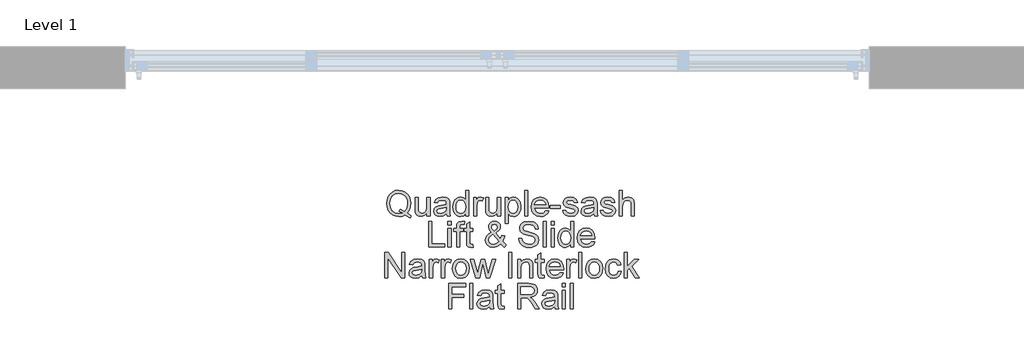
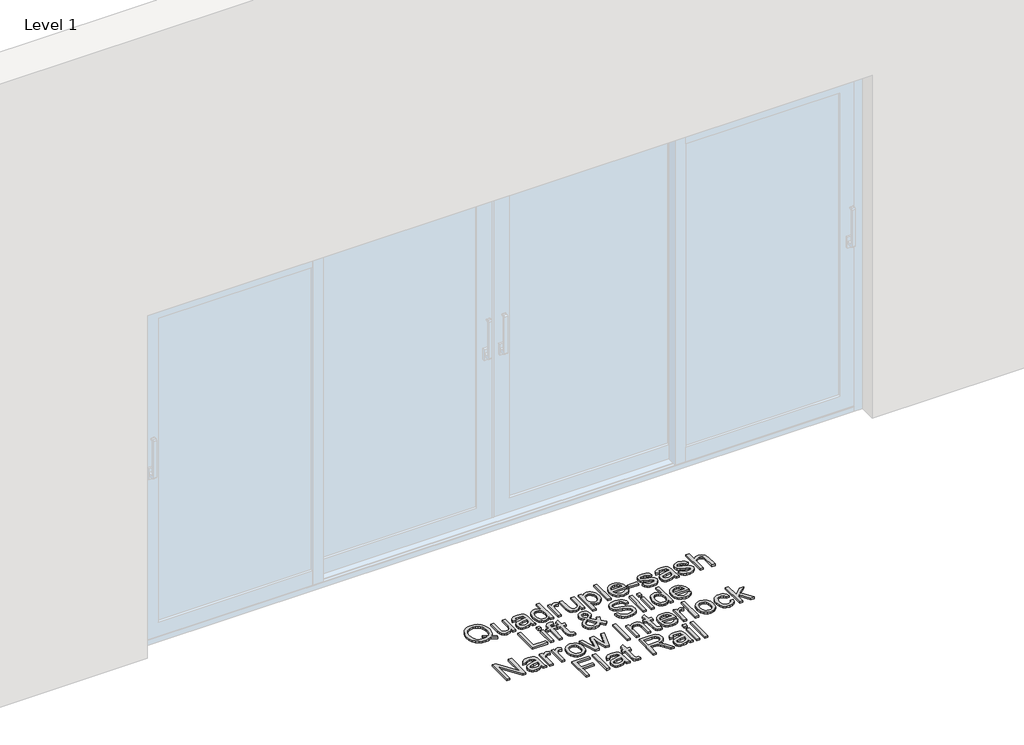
# One storey, part 2 of 11: 1 proxy.
"""IFC4 building model written with IfcOpenShell, lengths in millimetres."""

from ifc_helpers import new_model, si_unit, origin, origin_with_axes, place, context, project, spatial, polyline, outline, extrude, element, save

model = new_model("IFC4")

# Units and contexts
model_context = context("Model", 3, world=origin())
ifc_project = project(units=[si_unit("LENGTHUNIT", "METRE", prefix="MILLI")], contexts=[model_context])

# Site, building, storey
site = spatial("IfcSite", under=ifc_project)
building = spatial("IfcBuilding", under=site)
storey = spatial("IfcBuildingStorey", under=building, Name="Level 1", Elevation=0.0)

# Proxy
placement = place(None, origin())
element("IfcBuildingElementProxy", 1, Name="150mm Arial", ObjectType="150mm Arial", at=placement, inside=storey, context=model_context, shape_type="SweptSolid", body=[
    extrude(outline(polyline([(-5154.9723357, -5879.5997474), (-5131.611829, -5895.3083086), (-5136.6886005, -5909.1038834), (-5167.7010527, -5891.4823358), (-5185.1294623, -5897.8834825), (-5204.3053113, -5900.0171981), (-5223.5731308, -5897.5569873), (-5240.9831462, -5890.1763547), (-5255.5650688, -5878.3397515), (-5266.3486097, -5862.5116287), (-5273.0118724, -5843.5611074), (-5275.2329599, -5822.3573089), (-5273.0164709, -5801.1351163), (-5266.3670038, -5781.9086836), (-5255.6248496, -5765.855233), (-5241.130299, -5754.151987), (-5223.7846629, -5747.0058793), (-5204.4892523, -5744.6238433), (-5185.0420903, -5747.0610616), (-5167.6090822, -5754.3727162), (-5153.1375243, -5766.0713637), (-5142.5747125, -5781.6695603), (-5136.1183835, -5800.3395715), (-5133.9662738, -5821.2536629), (-5139.1901981, -5854.1791015), (-5145.7476947, -5867.8367206), (-5154.9723357, -5879.5997474)]), holes=[polyline([(-5199.1181751, -5854.5469835), (-5183.2808552, -5860.534263), (-5170.4969559, -5868.8575931), (-5157.2256129, -5849.4334238), (-5152.8018319, -5822.2101561), (-5154.3653304, -5805.6324737), (-5159.0558259, -5791.2896744), (-5166.7583551, -5779.5450417), (-5177.3579551, -5770.7618591), (-5190.1372559, -5765.2850159), (-5204.3788877, -5763.4594015), (-5224.906703, -5767.152017), (-5241.6085456, -5778.2298636), (-5252.7001877, -5796.6377589), (-5256.3974018, -5822.3205207), (-5252.7415744, -5847.4514595), (-5241.7740925, -5865.9697195), (-5225.1228337, -5877.3786598), (-5204.4156759, -5881.18164), (-5184.1453779, -5877.318879), (-5203.9742175, -5868.9679577), (-5199.1181751, -5854.5469835)])]), origin_with_axes(), (0.0, 0.0, 1.0), 10.0),
    extrude(outline(polyline([(-5037.4340382, -5897.6627533), (-5037.4340382, -5878.6432542), (-5052.1861063, -5894.6737121), (-5071.4263346, -5900.0171981), (-5089.1398527, -5896.2648018), (-5101.3535349, -5886.8470227), (-5106.9637353, -5872.9778715), (-5108.0673813, -5855.4666885), (-5108.0673813, -5787.0038492), (-5089.2318232, -5787.0038492), (-5089.2318232, -5846.6007324), (-5088.091389, -5865.8041726), (-5080.6417786, -5877.0797557), (-5066.6070805, -5881.18164), (-5050.8801252, -5876.9877852), (-5040.4874588, -5865.5650493), (-5037.4340382, -5844.5773814), (-5037.4340382, -5787.0038492), (-5018.5984801, -5787.0038492), (-5018.5984801, -5897.6627533), (-5037.4340382, -5897.6627533)])), origin_with_axes(), (0.0, 0.0, 1.0), 10.0),
    extrude(outline(polyline([(-4922.0662446, -5883.5360847), (-4940.3315856, -5896.30159), (-4960.5099131, -5900.0171981), (-4976.2506639, -5897.782315), (-4987.8619394, -5891.0776656), (-4995.0218427, -5880.8965314), (-4997.4084772, -5868.2321937), (-4993.8032336, -5853.3329729), (-4984.3302722, -5842.5172423), (-4971.1417027, -5836.3368247), (-4954.8445303, -5833.5041334), (-4922.1766092, -5827.0294103), (-4922.0662446, -5822.8355555), (-4923.3630286, -5814.4294519), (-4927.2533807, -5808.9296161), (-4935.9537899, -5804.846126), (-4948.0755016, -5803.4849626), (-4967.131789, -5807.1086002), (-4976.2184742, -5819.966076), (-4995.0540324, -5817.6116312), (-4986.9054462, -5799.2175314), (-4970.4979092, -5788.438589), (-4945.6474804, -5784.6494044), (-4922.8204026, -5787.9971306), (-4909.9261387, -5796.4032342), (-4904.1503914, -5809.1871335), (-4903.2306864, -5825.6682469), (-4903.2306864, -5849.10233), (-4902.2741932, -5881.8254334), (-4898.5217969, -5897.6627533), (-4917.357355, -5897.6627533), (-4922.0662446, -5883.5360847)]), holes=[polyline([(-4922.0662446, -5845.8649684), (-4952.4532974, -5851.6407157), (-4968.6584992, -5854.6941363), (-4975.9977451, -5859.6605432), (-4978.572919, -5866.9078185), (-4972.9627186, -5877.0981498), (-4956.4999993, -5881.18164), (-4937.443712, -5876.6750855), (-4925.1564533, -5865.7673844), (-4922.1766092, -5851.1992574), (-4922.0662446, -5845.8649684)])]), origin_with_axes(), (0.0, 0.0, 1.0), 10.0),
    extrude(outline(polyline([(-4809.0528956, -5897.6627533), (-4809.0528956, -5879.894053), (-4821.5148982, -5894.9864118), (-4838.7409727, -5900.0171981), (-4850.9178667, -5898.1961822), (-4862.0646911, -5892.7331346), (-4871.5008643, -5884.0097328), (-4878.5458045, -5872.4076544), (-4882.9327973, -5858.3959489), (-4884.3951283, -5842.4436659), (-4879.005657, -5812.4612833), (-4872.2734165, -5800.5694978), (-4862.8556374, -5791.8231033), (-4851.4650912, -5786.4428292), (-4838.8145491, -5784.6494044), (-4821.4505189, -5789.7813583), (-4809.0528956, -5803.1170806), (-4809.0528956, -5746.9782881), (-4790.2173375, -5746.9782881), (-4790.2173375, -5897.6627533), (-4809.0528956, -5897.6627533)]), holes=[polyline([(-4865.5595701, -5842.3700895), (-4863.4350516, -5859.4076244), (-4857.061496, -5871.5247376), (-4847.8000668, -5878.7674144), (-4837.0119273, -5881.18164), (-4826.2283863, -5878.877779), (-4817.2014818, -5871.966196), (-4811.0900422, -5860.3181323), (-4809.0528956, -5843.8048292), (-4811.1268304, -5825.7510203), (-4817.3486346, -5813.2338354), (-4826.6054653, -5805.9221808), (-4837.7844795, -5803.4849626), (-4848.6829836, -5805.8256118), (-4857.613319, -5812.8475594), (-4863.5730073, -5824.9094903), (-4865.5595701, -5842.3700895)])]), origin_with_axes(), (0.0, 0.0, 1.0), 10.0),
    extrude(outline(polyline([(-4761.9640003, -5897.6627533), (-4761.9640003, -5787.0038492), (-4745.4828869, -5787.0038492), (-4745.4828869, -5803.374598), (-4733.7842394, -5788.2914362), (-4722.0120156, -5784.6494044), (-4703.102881, -5790.4619399), (-4709.3936631, -5807.3477235), (-4722.637415, -5803.4849626), (-4733.2875987, -5807.2005707), (-4740.0750215, -5817.5012666), (-4743.1284421, -5839.5006099), (-4743.1284421, -5897.6627533), (-4761.9640003, -5897.6627533)])), origin_with_axes(), (0.0, 0.0, 1.0), 10.0),
    extrude(outline(polyline([(-4620.6973141, -5897.6627533), (-4620.6973141, -5878.6432542), (-4635.4493821, -5894.6737121), (-4654.6896105, -5900.0171981), (-4672.4031285, -5896.2648018), (-4684.6168108, -5886.8470227), (-4690.2270112, -5872.9778715), (-4691.3306572, -5855.4666885), (-4691.3306572, -5787.0038492), (-4672.495099, -5787.0038492), (-4672.495099, -5846.6007324), (-4671.3546648, -5865.8041726), (-4663.9050544, -5877.0797557), (-4649.8703563, -5881.18164), (-4634.143401, -5876.9877852), (-4623.7507347, -5865.5650493), (-4620.6973141, -5844.5773814), (-4620.6973141, -5787.0038492), (-4601.861756, -5787.0038492), (-4601.861756, -5897.6627533), (-4620.6973141, -5897.6627533)])), origin_with_axes(), (0.0, 0.0, 1.0), 10.0),
    extrude(outline(polyline([(-4575.9628635, -5940.0427592), (-4575.9628635, -5787.0038492), (-4557.1273053, -5787.0038492), (-4557.1273053, -5805.4715254), (-4544.1042827, -5789.8549347), (-4526.5195233, -5784.6494044), (-4513.7816093, -5786.4704203), (-4502.6439819, -5791.9334679), (-4493.5756907, -5800.7074535), (-4487.0457853, -5812.4612833), (-4481.7850727, -5841.4871727), (-4483.2703963, -5857.5958055), (-4487.726367, -5872.0029842), (-4495.0104305, -5883.9775431), (-4504.9800325, -5892.7883169), (-4516.591308, -5898.2099778), (-4528.8003917, -5900.0171981), (-4545.1895346, -5895.1795499), (-4557.1273053, -5882.9474735), (-4557.1273053, -5940.0427592), (-4575.9628635, -5940.0427592)]), holes=[polyline([(-4557.1273053, -5843.2162181), (-4555.0901588, -5860.1020016), (-4548.9787192, -5871.9110137), (-4539.9610117, -5878.8639834), (-4529.2050619, -5881.18164), (-4518.2743681, -5878.7812099), (-4509.0267345, -5871.5799199), (-4502.7221568, -5859.3386465), (-4500.6206309, -5841.8182665), (-4502.671573, -5825.0244534), (-4508.8243994, -5813.0498945), (-4517.8283112, -5805.8761955), (-4528.4325097, -5803.4849626), (-4539.078095, -5806.0279469), (-4548.4268962, -5813.6568997), (-4554.952203, -5826.1326979), (-4557.1273053, -5843.2162181)])]), origin_with_axes(), (0.0, 0.0, 1.0), 10.0),
    extrude(outline(polyline([(-4460.5950698, -5897.6627533), (-4460.5950698, -5746.9782881), (-4441.7595117, -5746.9782881), (-4441.7595117, -5897.6627533), (-4460.5950698, -5897.6627533)])), origin_with_axes(), (0.0, 0.0, 1.0), 10.0),
    extrude(outline(polyline([(-4336.0302262, -5864.7005266), (-4317.5625501, -5867.0549713), (-4324.2166157, -5880.9701078), (-4334.8346098, -5891.3719712), (-4349.177409, -5897.8558914), (-4367.0058902, -5900.0171981), (-4389.1064011, -5896.2877944), (-4406.1117463, -5885.0995832), (-4416.9550681, -5867.1791315), (-4420.5695087, -5843.2530063), (-4416.9182799, -5818.5221391), (-4405.9645935, -5800.0268718), (-4389.1891745, -5788.4937713), (-4368.072748, -5784.6494044), (-4347.6139106, -5788.4845742), (-4331.2661544, -5799.9900836), (-4320.5469928, -5818.4485627), (-4316.9739389, -5843.1426417), (-4317.0843035, -5848.2194132), (-4401.7339506, -5848.2194132), (-4398.4735964, -5862.3184907), (-4390.8998258, -5872.6835659), (-4379.969132, -5879.0571214), (-4366.6380082, -5881.18164), (-4348.1703321, -5877.2453026), (-4336.0302262, -5864.7005266)]), holes=[polyline([(-4401.7339506, -5829.383855), (-4335.809497, -5829.383855), (-4338.3570799, -5819.4326471), (-4343.3510779, -5812.3141305), (-4354.3323555, -5805.6922545), (-4368.1463244, -5803.4849626), (-4380.8428518, -5805.2461976), (-4391.3412842, -5810.5299028), (-4398.6391433, -5818.765861), (-4401.7339506, -5829.383855)])]), origin_with_axes(), (0.0, 0.0, 1.0), 10.0),
    extrude(outline(polyline([(-4307.5561598, -5852.9283027), (-4307.5561598, -5834.0927446), (-4248.6950406, -5834.0927446), (-4248.6950406, -5852.9283027), (-4307.5561598, -5852.9283027)])), origin_with_axes(), (0.0, 0.0, 1.0), 10.0),
    extrude(outline(polyline([(-4234.568372, -5864.7005266), (-4215.7328138, -5862.3460818), (-4212.7621667, -5870.4026975), (-4207.0140105, -5876.3255976), (-4187.0380182, -5881.18164), (-4167.834578, -5876.7302678), (-4161.5805841, -5866.2824192), (-4163.1532797, -5861.4815591), (-4167.8713662, -5857.8211333), (-4187.2587474, -5852.4500561), (-4215.6224492, -5843.2346122), (-4228.0016784, -5832.4740638), (-4232.2139272, -5817.2805374), (-4228.8294128, -5803.2458393), (-4219.5955748, -5792.5220791), (-4207.6210158, -5786.9486669), (-4191.4158139, -5784.6494044), (-4168.4967656, -5788.3466185), (-4153.9286386, -5798.3530087), (-4147.4539155, -5815.2571864), (-4166.2894737, -5817.6116312), (-4173.3712021, -5807.2189648), (-4189.944286, -5803.4849626), (-4207.9705037, -5807.0534179), (-4213.3783691, -5815.367551), (-4211.1342889, -5820.8489927), (-4204.1077428, -5825.0060593), (-4187.8841468, -5829.015973), (-4160.2378148, -5837.8819291), (-4147.3987332, -5847.9251076), (-4142.745026, -5864.2958564), (-4148.2080736, -5882.3220741), (-4163.9718171, -5895.4002791), (-4187.2955356, -5900.0171981), (-4206.2874436, -5897.791512), (-4220.1473978, -5891.1144538), (-4229.3996299, -5880.0595999), (-4234.568372, -5864.7005266)])), origin_with_axes(), (0.0, 0.0, 1.0), 10.0),
    extrude(outline(polyline([(-4050.92168, -5883.5360847), (-4069.187021, -5896.30159), (-4089.3653485, -5900.0171981), (-4105.1060993, -5897.782315), (-4116.7173748, -5891.0776656), (-4123.8772781, -5880.8965314), (-4126.2639126, -5868.2321937), (-4122.658669, -5853.3329729), (-4113.1857077, -5842.5172423), (-4099.9971381, -5836.3368247), (-4083.6999658, -5833.5041334), (-4051.0320446, -5827.0294103), (-4050.92168, -5822.8355555), (-4052.218464, -5814.4294519), (-4056.1088161, -5808.9296161), (-4064.8092253, -5804.846126), (-4076.930937, -5803.4849626), (-4095.9872244, -5807.1086002), (-4105.0739097, -5819.966076), (-4123.9094678, -5817.6116312), (-4115.7608816, -5799.2175314), (-4099.3533446, -5788.438589), (-4074.5029159, -5784.6494044), (-4051.6758381, -5787.9971306), (-4038.7815741, -5796.4032342), (-4033.0058268, -5809.1871335), (-4032.0861218, -5825.6682469), (-4032.0861218, -5849.10233), (-4031.1296286, -5881.8254334), (-4027.3772323, -5897.6627533), (-4046.2127904, -5897.6627533), (-4050.92168, -5883.5360847)]), holes=[polyline([(-4050.92168, -5845.8649684), (-4081.3087328, -5851.6407157), (-4097.5139347, -5854.6941363), (-4104.8531805, -5859.6605432), (-4107.4283544, -5866.9078185), (-4101.818154, -5877.0981498), (-4085.3554347, -5881.18164), (-4066.2991474, -5876.6750855), (-4054.0118887, -5865.7673844), (-4051.0320446, -5851.1992574), (-4050.92168, -5845.8649684)])]), origin_with_axes(), (0.0, 0.0, 1.0), 10.0),
    extrude(outline(polyline([(-4013.2505637, -5864.7005266), (-3994.4150055, -5862.3460818), (-3991.4443584, -5870.4026975), (-3985.6962022, -5876.3255976), (-3965.7202099, -5881.18164), (-3946.5167697, -5876.7302678), (-3940.2627758, -5866.2824192), (-3941.8354714, -5861.4815591), (-3946.5535579, -5857.8211333), (-3965.9409391, -5852.4500561), (-3994.3046409, -5843.2346122), (-4006.6838701, -5832.4740638), (-4010.8961189, -5817.2805374), (-4007.5116045, -5803.2458393), (-3998.2777665, -5792.5220791), (-3986.3032075, -5786.9486669), (-3970.0980056, -5784.6494044), (-3947.1789573, -5788.3466185), (-3932.6108303, -5798.3530087), (-3926.1361072, -5815.2571864), (-3944.9716654, -5817.6116312), (-3952.0533938, -5807.2189648), (-3968.6264777, -5803.4849626), (-3986.6526954, -5807.0534179), (-3992.0605608, -5815.367551), (-3989.8164806, -5820.8489927), (-3982.7899345, -5825.0060593), (-3966.5663385, -5829.015973), (-3938.9200065, -5837.8819291), (-3926.0809249, -5847.9251076), (-3921.4272177, -5864.2958564), (-3926.8902653, -5882.3220741), (-3942.6540088, -5895.4002791), (-3965.9777273, -5900.0171981), (-3984.9696353, -5897.791512), (-3998.8295895, -5891.1144538), (-4008.0818216, -5880.0595999), (-4013.2505637, -5864.7005266)])), origin_with_axes(), (0.0, 0.0, 1.0), 10.0),
    extrude(outline(polyline([(-3900.2372148, -5897.6627533), (-3900.2372148, -5746.9782881), (-3881.4016566, -5746.9782881), (-3881.4016566, -5802.3813166), (-3866.7139679, -5789.0823825), (-3848.6233708, -5784.6494044), (-3827.4701561, -5789.4870527), (-3814.6310745, -5802.8595632), (-3810.7683135, -5827.6180215), (-3810.7683135, -5897.6627533), (-3829.6038717, -5897.6627533), (-3829.6038717, -5829.567796), (-3831.1029908, -5817.7771781), (-3835.6003482, -5809.7021683), (-3842.8476235, -5805.039264), (-3852.5964964, -5803.4849626), (-3868.0291461, -5807.6788173), (-3878.3298419, -5819.046371), (-3881.4016566, -5838.8752105), (-3881.4016566, -5897.6627533), (-3900.2372148, -5897.6627533)])), origin_with_axes(), (0.0, 0.0, 1.0), 10.0),
    extrude(outline(polyline([(-5026.8390368, -6080.6249801), (-5026.8390368, -5929.9405149), (-5008.0034786, -5929.9405149), (-5008.0034786, -6061.789422), (-4932.661246, -6061.789422), (-4932.661246, -6080.6249801), (-5026.8390368, -6080.6249801)])), origin_with_axes(), (0.0, 0.0, 1.0), 10.0),
    extrude(outline(polyline([(-4913.8256879, -5948.776073), (-4913.8256879, -5929.9405149), (-4894.9901297, -5929.9405149), (-4894.9901297, -5948.776073), (-4913.8256879, -5948.776073)])), origin_with_axes(), (0.0, 0.0, 1.0), 10.0),
    extrude(outline(polyline([(-4913.8256879, -6080.6249801), (-4913.8256879, -5969.966076), (-4894.9901297, -5969.966076), (-4894.9901297, -6080.6249801), (-4913.8256879, -6080.6249801)])), origin_with_axes(), (0.0, 0.0, 1.0), 10.0),
    extrude(outline(polyline([(-4765.4956674, -6064.9164189), (-4763.1412226, -6081.1768031), (-4777.2311031, -6082.9794249), (-4793.0132407, -6079.8524279), (-4800.8859153, -6071.6486594), (-4803.1667837, -6050.2747155), (-4803.1667837, -5988.8016341), (-4817.2934523, -5988.8016341), (-4817.2934523, -5969.966076), (-4803.1667837, -5969.966076), (-4803.1667837, -5943.0739021), (-4784.3312256, -5932.0006541), (-4784.3312256, -5969.966076), (-4765.4956674, -5969.966076), (-4765.4956674, -5988.8016341), (-4784.3312256, -5988.8016341), (-4784.3312256, -6049.7228925), (-4783.3379442, -6059.4349772), (-4780.1189767, -6062.8746738), (-4773.6994359, -6064.1438667), (-4765.4956674, -6064.9164189)])), origin_with_axes(), (0.0, 0.0, 1.0), 10.0),
    extrude(outline(polyline([(-4862.0279029, -6080.6249801), (-4862.0279029, -5988.8016341), (-4878.5090163, -5988.8016341), (-4878.5090163, -5969.966076), (-4862.0279029, -5969.966076), (-4862.0279029, -5958.8192515), (-4860.0413402, -5943.1106903), (-4850.4028319, -5931.8902895), (-4831.4201209, -5927.5860701), (-4814.2400318, -5929.6462093), (-4816.9991467, -5947.3045451), (-4827.8516656, -5946.4216283), (-4839.7158599, -5949.5486252), (-4843.1923448, -5961.2104845), (-4843.1923448, -5969.966076), (-4822.0023419, -5969.966076), (-4822.0023419, -5988.8016341), (-4843.1923448, -5988.8016341), (-4843.1923448, -6080.6249801), (-4862.0279029, -6080.6249801)])), origin_with_axes(), (0.0, 0.0, 1.0), 10.0),
    extrude(outline(polyline([(-4601.3835094, -6062.0101512), (-4621.3595017, -6077.7371064), (-4644.7200084, -6082.9794249), (-4665.5053411, -6079.0982698), (-4681.5082079, -6067.4548047), (-4689.7579617, -6054.054703), (-4692.5078796, -6039.1646793), (-4690.2959891, -6025.9669127), (-4683.6603176, -6014.1119154), (-4672.6284563, -6003.6088844), (-4657.2279962, -5994.4670168), (-4670.3797776, -5975.4107295), (-4673.6723214, -5961.2840609), (-4671.0787533, -5948.5645409), (-4663.2980492, -5937.6292486), (-4651.5902047, -5930.0968647), (-4637.2152157, -5927.5860701), (-4623.5392025, -5929.9865001), (-4612.6039102, -5937.1877902), (-4605.4302113, -5947.7552005), (-4603.0389783, -5960.2539913), (-4604.8094104, -5970.7478252), (-4610.1207067, -5980.4507128), (-4631.365892, -5997.4836492), (-4604.1058361, -6031.4391574), (-4595.975644, -6010.5802482), (-4577.1400859, -6014.6637384), (-4590.4574141, -6045.6761906), (-4567.7223068, -6068.4848743), (-4581.8489754, -6082.9794249), (-4601.3835094, -6062.0101512)]), holes=[polyline([(-4640.8940356, -5985.6010608), (-4625.4062036, -5973.9208074), (-4621.8745365, -5962.8291653), (-4626.5282437, -5951.0017591), (-4638.1717089, -5946.4216283), (-4650.0726914, -5950.9649709), (-4654.8367633, -5962.0566131), (-4653.2180825, -5968.9544005), (-4648.3252519, -5976.6247401), (-4640.8940356, -5985.6010608)]), polyline([(-4614.0018618, -6048.4353055), (-4647.6262762, -6006.4599699), (-4668.3196384, -6022.2421075), (-4673.6723214, -6036.6630817), (-4671.8421085, -6045.5474319), (-4666.3514697, -6054.7628758), (-4657.5039077, -6061.798619), (-4645.6029252, -6064.1438667), (-4628.2940773, -6059.766071), (-4614.0018618, -6048.4353055)])]), origin_with_axes(), (0.0, 0.0, 1.0), 10.0),
    extrude(outline(polyline([(-4494.734519, -6028.8271952), (-4475.8989608, -6028.8271952), (-4469.8289079, -6047.6811474), (-4455.0032635, -6059.6005241), (-4432.415309, -6064.1438667), (-4412.7336222, -6060.7041701), (-4400.0232993, -6051.2496028), (-4395.8478387, -6038.6128563), (-4398.9748356, -6026.8590265), (-4411.777129, -6018.3057701), (-4439.2027318, -6011.1136771), (-4468.7252619, -6001.8246567), (-4484.7465228, -5987.8083527), (-4490.0256294, -5969.0831592), (-4488.3931531, -5958.0512978), (-4483.495724, -5947.7643976), (-4475.4621009, -5939.0455943), (-4464.4210426, -5932.7180239), (-4436.4987991, -5927.5860701), (-4406.7003575, -5932.9571472), (-4395.2776216, -5939.5882202), (-4386.8347298, -5948.7392848), (-4381.4912438, -5959.840124), (-4379.3667253, -5972.3205207), (-4398.2022834, -5972.3205207), (-4401.6603742, -5961.0817258), (-4408.8708613, -5952.9699278), (-4420.1372474, -5948.0587031), (-4435.7630351, -5946.4216283), (-4451.7567049, -5948.040309), (-4462.7287854, -5952.8963514), (-4469.0747498, -5960.0424591), (-4471.1900713, -5968.5313362), (-4469.6909521, -5975.7694144), (-4465.1935947, -5981.591147), (-4434.43866, -5992.1125721), (-4401.1085512, -6001.5671393), (-4390.3709955, -6008.4005474), (-4382.8799983, -6016.8342421), (-4378.47921, -6026.7762531), (-4377.0122805, -6038.1346097), (-4378.6999392, -6049.7458851), (-4383.7629151, -6060.6673819), (-4391.9942748, -6070.0667668), (-4403.1870845, -6077.1117071), (-4416.646967, -6081.5124954), (-4431.679545, -6082.9794249), (-4450.1334256, -6081.3975323), (-4465.3223534, -6076.6518546), (-4477.4210726, -6068.7239976), (-4486.6043269, -6057.5955672), (-4492.4996358, -6044.0391157), (-4494.734519, -6028.8271952)])), origin_with_axes(), (0.0, 0.0, 1.0), 10.0),
    extrude(outline(polyline([(-4351.113388, -6080.6249801), (-4351.113388, -5929.9405149), (-4332.2778299, -5929.9405149), (-4332.2778299, -6080.6249801), (-4351.113388, -6080.6249801)])), origin_with_axes(), (0.0, 0.0, 1.0), 10.0),
    extrude(outline(polyline([(-4304.0244927, -5948.776073), (-4304.0244927, -5929.9405149), (-4285.1889345, -5929.9405149), (-4285.1889345, -5948.776073), (-4304.0244927, -5948.776073)])), origin_with_axes(), (0.0, 0.0, 1.0), 10.0),
    extrude(outline(polyline([(-4304.0244927, -6080.6249801), (-4304.0244927, -5969.966076), (-4285.1889345, -5969.966076), (-4285.1889345, -6080.6249801), (-4304.0244927, -6080.6249801)])), origin_with_axes(), (0.0, 0.0, 1.0), 10.0),
    extrude(outline(polyline([(-4188.656699, -6080.6249801), (-4188.656699, -6062.8562797), (-4201.1187016, -6077.9486386), (-4218.344776, -6082.9794249), (-4230.52167, -6081.158409), (-4241.6684945, -6075.6953614), (-4251.1046677, -6066.9719596), (-4258.1496079, -6055.3698811), (-4262.5366007, -6041.3581756), (-4263.9989316, -6025.4058926), (-4258.6094604, -5995.42351), (-4251.8772198, -5983.5317245), (-4242.4594408, -5974.7853301), (-4231.0688945, -5969.4050559), (-4218.4183524, -5967.6116312), (-4201.0543222, -5972.743585), (-4188.656699, -5986.0793073), (-4188.656699, -5929.9405149), (-4169.8211408, -5929.9405149), (-4169.8211408, -6080.6249801), (-4188.656699, -6080.6249801)]), holes=[polyline([(-4245.1633734, -6025.3323162), (-4243.0388549, -6042.3698511), (-4236.6652993, -6054.4869644), (-4227.4038701, -6061.7296411), (-4216.6157306, -6064.1438667), (-4205.8321896, -6061.8400057), (-4196.8052852, -6054.9284227), (-4190.6938455, -6043.2803591), (-4188.656699, -6026.767056), (-4190.7306337, -6008.7132471), (-4196.952438, -5996.1960622), (-4206.2092687, -5988.8844076), (-4217.3882828, -5986.4471893), (-4228.2867869, -5988.7878385), (-4237.2171223, -5995.8097861), (-4243.1768107, -6007.871717), (-4245.1633734, -6025.3323162)])]), origin_with_axes(), (0.0, 0.0, 1.0), 10.0),
    extrude(outline(polyline([(-4064.0918554, -6047.6627533), (-4045.6241792, -6050.0171981), (-4052.2782448, -6063.9323346), (-4062.8962389, -6074.334198), (-4077.2390382, -6080.8181182), (-4095.0675194, -6082.9794249), (-4117.1680303, -6079.2500212), (-4134.1733755, -6068.06181), (-4145.0166973, -6050.1413583), (-4148.6311379, -6026.215233), (-4144.9799091, -6001.4843659), (-4134.0262227, -5982.9890986), (-4117.2508037, -5971.455998), (-4096.1343772, -5967.6116312), (-4075.6755397, -5971.446801), (-4059.3277836, -5982.9523104), (-4048.6086219, -6001.4107895), (-4045.0355681, -6026.1048684), (-4045.1459327, -6031.18164), (-4129.7955797, -6031.18164), (-4126.5352256, -6045.2807174), (-4118.961455, -6055.6457926), (-4108.0307612, -6062.0193482), (-4094.6996374, -6064.1438667), (-4076.2319612, -6060.2075294), (-4064.0918554, -6047.6627533)]), holes=[polyline([(-4129.7955797, -6012.3460818), (-4063.8711262, -6012.3460818), (-4066.418709, -6002.3948738), (-4071.4127071, -5995.2763572), (-4082.3939847, -5988.6544813), (-4096.2079536, -5986.4471893), (-4108.9044809, -5988.2084244), (-4119.4029134, -5993.4921296), (-4126.7007725, -6001.7280877), (-4129.7955797, -6012.3460818)])]), origin_with_axes(), (0.0, 0.0, 1.0), 10.0),
    extrude(outline(polyline([(-5287.0051838, -6263.5872069), (-5287.0051838, -6112.9027417), (-5266.8452504, -6112.9027417), (-5188.1185035, -6232.2804491), (-5188.1185035, -6112.9027417), (-5169.2829453, -6112.9027417), (-5169.2829453, -6263.5872069), (-5189.4428787, -6263.5872069), (-5268.1696256, -6144.1727112), (-5268.1696256, -6263.5872069), (-5287.0051838, -6263.5872069)])), origin_with_axes(), (0.0, 0.0, 1.0), 10.0),
    extrude(outline(polyline([(-5068.0418202, -6249.4605383), (-5086.3071613, -6262.2260435), (-5106.4854887, -6265.9416516), (-5122.2262396, -6263.7067685), (-5133.8375151, -6257.0021192), (-5140.9974184, -6246.8209849), (-5143.3840529, -6234.1566473), (-5139.7788093, -6219.2574265), (-5130.3058479, -6208.4416958), (-5117.1172784, -6202.2612783), (-5100.820106, -6199.4285869), (-5068.1521848, -6192.9538638), (-5068.0418202, -6188.7600091), (-5069.3386043, -6180.3539055), (-5073.2289564, -6174.8540696), (-5081.9293656, -6170.7705795), (-5094.0510773, -6169.4094161), (-5113.1073647, -6173.0330538), (-5122.1940499, -6185.8905295), (-5141.0296081, -6183.5360847), (-5132.8810219, -6165.141985), (-5116.4734849, -6154.3630425), (-5091.6230561, -6150.573858), (-5068.7959783, -6153.9215841), (-5055.9017144, -6162.3276877), (-5050.1259671, -6175.111587), (-5049.2062621, -6191.5927004), (-5049.2062621, -6215.0267835), (-5048.2497689, -6247.749887), (-5044.4973726, -6263.5872069), (-5063.3329307, -6263.5872069), (-5068.0418202, -6249.4605383)]), holes=[polyline([(-5068.0418202, -6211.789422), (-5098.428873, -6217.5651693), (-5114.6340749, -6220.6185898), (-5121.9733207, -6225.5849968), (-5124.5484947, -6232.8322721), (-5118.9382943, -6243.0226033), (-5102.475575, -6247.1060935), (-5083.4192876, -6242.5995391), (-5071.132029, -6231.6918379), (-5068.1521848, -6217.1237109), (-5068.0418202, -6211.789422)])]), origin_with_axes(), (0.0, 0.0, 1.0), 10.0),
    extrude(outline(polyline([(-5023.3073696, -6263.5872069), (-5023.3073696, -6152.9283027), (-5006.8262562, -6152.9283027), (-5006.8262562, -6169.2990515), (-4995.1276088, -6154.2158897), (-4983.355385, -6150.573858), (-4964.4462504, -6156.3863935), (-4970.7370325, -6173.2721771), (-4983.9807843, -6169.4094161), (-4994.6309681, -6173.1250243), (-5001.4183909, -6183.4257201), (-5004.4718115, -6205.4250634), (-5004.4718115, -6263.5872069), (-5023.3073696, -6263.5872069)])), origin_with_axes(), (0.0, 0.0, 1.0), 10.0),
    extrude(outline(polyline([(-4952.6740266, -6263.5872069), (-4952.6740266, -6152.9283027), (-4936.1929132, -6152.9283027), (-4936.1929132, -6169.2990515), (-4924.4942657, -6154.2158897), (-4912.7220419, -6150.573858), (-4893.8129073, -6156.3863935), (-4900.1036894, -6173.2721771), (-4913.3474413, -6169.4094161), (-4923.997625, -6173.1250243), (-4930.7850478, -6183.4257201), (-4933.8384684, -6205.4250634), (-4933.8384684, -6263.5872069), (-4952.6740266, -6263.5872069)])), origin_with_axes(), (0.0, 0.0, 1.0), 10.0),
    extrude(outline(polyline([(-4886.749573, -6208.2577548), (-4882.6752799, -6181.5771131), (-4870.4524006, -6162.8243284), (-4855.3508447, -6153.6364756), (-4837.2694447, -6150.573858), (-4817.4819919, -6154.3032617), (-4801.6768616, -6165.4914729), (-4791.3163849, -6183.2555747), (-4787.8628927, -6206.7126504), (-4789.389603, -6225.7413466), (-4793.9697338, -6240.2267002), (-4801.469928, -6251.0746205), (-4811.7568283, -6259.191017), (-4823.9751091, -6264.253993), (-4837.2694447, -6265.9416516), (-4857.2960208, -6262.2260435), (-4873.0827569, -6251.079219), (-4883.332869, -6232.9426367), (-4886.749573, -6208.2577548)]), holes=[polyline([(-4867.9140149, -6208.2209666), (-4865.734314, -6225.2676986), (-4859.1952116, -6237.4124029), (-4849.3543682, -6244.6826709), (-4837.2694447, -6247.1060935), (-4825.2397034, -6244.6688753), (-4815.4172542, -6237.3572206), (-4808.8781517, -6225.0515679), (-4806.6984509, -6207.6323554), (-4808.8919473, -6191.0822642), (-4815.4724365, -6179.1031067), (-4825.3086813, -6171.8328388), (-4837.2694447, -6169.4094161), (-4849.3543682, -6171.8236417), (-4859.1952116, -6179.0663185), (-4865.734314, -6191.1834317), (-4867.9140149, -6208.2209666)])]), origin_with_axes(), (0.0, 0.0, 1.0), 10.0),
    extrude(outline(polyline([(-4748.3155782, -6263.5872069), (-4781.9767808, -6152.9283027), (-4762.4054587, -6152.9283027), (-4743.3123831, -6217.4915929), (-4737.6102122, -6240.557794), (-4732.9381108, -6218.3377215), (-4717.7445844, -6152.9283027), (-4695.3037827, -6152.9283027), (-4680.1838327, -6218.1537805), (-4676.0267662, -6238.2769256), (-4670.0670779, -6217.0501345), (-4650.9372141, -6152.9283027), (-4631.2923156, -6152.9283027), (-4665.2110355, -6263.5872069), (-4687.982931, -6263.5872069), (-4702.4406934, -6198.6928229), (-4706.6345482, -6178.4593132), (-4725.2861653, -6263.5872069), (-4748.3155782, -6263.5872069)])), origin_with_axes(), (0.0, 0.0, 1.0), 10.0),
    extrude(outline(polyline([(-4554.7728606, -6263.5872069), (-4554.7728606, -6112.9027417), (-4535.9373024, -6112.9027417), (-4535.9373024, -6263.5872069), (-4554.7728606, -6263.5872069)])), origin_with_axes(), (0.0, 0.0, 1.0), 10.0),
    extrude(outline(polyline([(-4500.6206309, -6263.5872069), (-4500.6206309, -6152.9283027), (-4481.7850727, -6152.9283027), (-4481.7850727, -6168.3793465), (-4467.3824926, -6155.0252301), (-4447.7192, -6150.573858), (-4429.9321055, -6154.1607074), (-4417.7919997, -6163.5784865), (-4412.145011, -6177.4292436), (-4411.1517297, -6195.6394024), (-4411.1517297, -6263.5872069), (-4429.9872878, -6263.5872069), (-4429.9872878, -6198.1777881), (-4432.1577916, -6181.5127338), (-4439.8281312, -6172.70196), (-4452.7591833, -6169.4094161), (-4463.7910446, -6171.2580231), (-4473.1950281, -6176.8038442), (-4479.6375616, -6187.5184073), (-4481.7850727, -6204.8732404), (-4481.7850727, -6263.5872069), (-4500.6206309, -6263.5872069)])), origin_with_axes(), (0.0, 0.0, 1.0), 10.0),
    extrude(outline(polyline([(-4345.2272761, -6247.8786457), (-4342.8728314, -6264.1390299), (-4356.9627118, -6265.9416516), (-4372.7448494, -6262.8146547), (-4380.6175241, -6254.6108862), (-4382.8983924, -6233.2369423), (-4382.8983924, -6171.7638609), (-4397.025061, -6171.7638609), (-4397.025061, -6152.9283027), (-4382.8983924, -6152.9283027), (-4382.8983924, -6126.0361289), (-4364.0628343, -6114.9628808), (-4364.0628343, -6152.9283027), (-4345.2272761, -6152.9283027), (-4345.2272761, -6171.7638609), (-4364.0628343, -6171.7638609), (-4364.0628343, -6232.6851193), (-4363.0695529, -6242.397204), (-4359.8505854, -6245.8369006), (-4353.4310446, -6247.1060935), (-4345.2272761, -6247.8786457)])), origin_with_axes(), (0.0, 0.0, 1.0), 10.0),
    extrude(outline(polyline([(-4248.9157698, -6230.6249801), (-4230.4480936, -6232.9794249), (-4237.1021592, -6246.8945613), (-4247.7201533, -6257.2964248), (-4262.0629526, -6263.7803449), (-4279.8914338, -6265.9416516), (-4301.9919446, -6262.2122479), (-4318.9972899, -6251.0240367), (-4329.8406117, -6233.1035851), (-4333.4550523, -6209.1774598), (-4329.8038235, -6184.4465927), (-4318.8501371, -6165.9513254), (-4302.0747181, -6154.4182248), (-4280.9582916, -6150.573858), (-4260.4994541, -6154.4090278), (-4244.1516979, -6165.9145372), (-4233.4325363, -6184.3730163), (-4229.8594824, -6209.0670952), (-4229.969847, -6214.1438667), (-4314.6194941, -6214.1438667), (-4311.3591399, -6228.2429442), (-4303.7853694, -6238.6080194), (-4292.8546756, -6244.981575), (-4279.5235518, -6247.1060935), (-4261.0558756, -6243.1697561), (-4248.9157698, -6230.6249801)]), holes=[polyline([(-4314.6194941, -6195.3083086), (-4248.6950406, -6195.3083086), (-4251.2426234, -6185.3571006), (-4256.2366215, -6178.238584), (-4267.217899, -6171.6167081), (-4281.031868, -6169.4094161), (-4293.7283953, -6171.1706512), (-4304.2268278, -6176.4543563), (-4311.5246868, -6184.6903145), (-4314.6194941, -6195.3083086)])]), origin_with_axes(), (0.0, 0.0, 1.0), 10.0),
    extrude(outline(polyline([(-4211.0239243, -6263.5872069), (-4211.0239243, -6152.9283027), (-4194.5428109, -6152.9283027), (-4194.5428109, -6169.2990515), (-4182.8441635, -6154.2158897), (-4171.0719396, -6150.573858), (-4152.1628051, -6156.3863935), (-4158.4535872, -6173.2721771), (-4171.697339, -6169.4094161), (-4182.3475228, -6173.1250243), (-4189.1349456, -6183.4257201), (-4192.1883661, -6205.4250634), (-4192.1883661, -6263.5872069), (-4211.0239243, -6263.5872069)])), origin_with_axes(), (0.0, 0.0, 1.0), 10.0),
    extrude(outline(polyline([(-4140.3905812, -6263.5872069), (-4140.3905812, -6112.9027417), (-4121.5550231, -6112.9027417), (-4121.5550231, -6263.5872069), (-4140.3905812, -6263.5872069)])), origin_with_axes(), (0.0, 0.0, 1.0), 10.0),
    extrude(outline(polyline([(-4098.0105754, -6208.2577548), (-4093.9362823, -6181.5771131), (-4081.713403, -6162.8243284), (-4066.6118471, -6153.6364756), (-4048.530447, -6150.573858), (-4028.7429942, -6154.3032617), (-4012.937864, -6165.4914729), (-4002.5773873, -6183.2555747), (-3999.1238951, -6206.7126504), (-4000.6506053, -6225.7413466), (-4005.2307362, -6240.2267002), (-4012.7309304, -6251.0746205), (-4023.0178306, -6259.191017), (-4035.2361114, -6264.253993), (-4048.530447, -6265.9416516), (-4068.5570231, -6262.2260435), (-4084.3437592, -6251.079219), (-4094.5938713, -6232.9426367), (-4098.0105754, -6208.2577548)]), holes=[polyline([(-4079.1750172, -6208.2209666), (-4076.9953164, -6225.2676986), (-4070.4562139, -6237.4124029), (-4060.6153706, -6244.6826709), (-4048.530447, -6247.1060935), (-4036.5007058, -6244.6688753), (-4026.6782565, -6237.3572206), (-4020.139154, -6225.0515679), (-4017.9594532, -6207.6323554), (-4020.1529496, -6191.0822642), (-4026.7334388, -6179.1031067), (-4036.5696836, -6171.8328388), (-4048.530447, -6169.4094161), (-4060.6153706, -6171.8236417), (-4070.4562139, -6179.0663185), (-4076.9953164, -6191.1834317), (-4079.1750172, -6208.2209666)])]), origin_with_axes(), (0.0, 0.0, 1.0), 10.0),
    extrude(outline(polyline([(-3907.3005491, -6223.5616458), (-3888.4649909, -6225.9160906), (-3893.7165064, -6242.6685169), (-3903.5849409, -6255.3282561), (-3917.1413924, -6263.2883028), (-3933.4569589, -6265.9416516), (-3953.4927321, -6262.2398391), (-3969.1599066, -6251.1344013), (-3979.2720629, -6233.1127821), (-3982.6427817, -6208.662425), (-3981.2034434, -6191.9008016), (-3976.8854285, -6177.3740613), (-3969.619759, -6165.6432242), (-3959.3374573, -6157.2693103), (-3947.0364031, -6152.247721), (-3933.7144763, -6150.573858), (-3917.7989815, -6152.8731204), (-3905.074863, -6159.7709078), (-3895.946791, -6170.8993382), (-3890.8194357, -6185.8905295), (-3909.6549938, -6188.2449743), (-3918.3921912, -6174.1366998), (-3933.5673235, -6169.4094161), (-3945.739619, -6171.7362697), (-3955.4011199, -6178.7168306), (-3961.7056976, -6190.7281777), (-3963.8072235, -6208.1473902), (-3961.7516829, -6225.8011274), (-3955.5850609, -6237.8538613), (-3946.098304, -6244.7930354), (-3934.0823583, -6247.1060935), (-3924.3288869, -6245.6621567), (-3916.332052, -6241.3303462), (-3910.514918, -6234.0002974), (-3907.3005491, -6223.5616458)])), origin_with_axes(), (0.0, 0.0, 1.0), 10.0),
    extrude(outline(polyline([(-3871.9838775, -6263.5872069), (-3871.9838775, -6112.9027417), (-3853.1483194, -6112.9027417), (-3853.1483194, -6193.8735688), (-3810.9154663, -6152.9283027), (-3784.8694211, -6152.9283027), (-3827.6173089, -6194.3886036), (-3782.5149763, -6263.5872069), (-3804.5143196, -6263.5872069), (-3841.1185781, -6207.4852026), (-3853.1483194, -6219.1470619), (-3853.1483194, -6263.5872069), (-3871.9838775, -6263.5872069)])), origin_with_axes(), (0.0, 0.0, 1.0), 10.0),
    extrude(outline(polyline([(-4909.1167983, -6446.5494336), (-4909.1167983, -6295.8649684), (-4807.8756733, -6295.8649684), (-4807.8756733, -6314.7005266), (-4890.2812402, -6314.7005266), (-4890.2812402, -6359.4349772), (-4819.6478971, -6359.4349772), (-4819.6478971, -6378.2705353), (-4890.2812402, -6378.2705353), (-4890.2812402, -6446.5494336), (-4909.1167983, -6446.5494336)])), origin_with_axes(), (0.0, 0.0, 1.0), 10.0),
    extrude(outline(polyline([(-4784.3312256, -6446.5494336), (-4784.3312256, -6295.8649684), (-4765.4956674, -6295.8649684), (-4765.4956674, -6446.5494336), (-4784.3312256, -6446.5494336)])), origin_with_axes(), (0.0, 0.0, 1.0), 10.0),
    extrude(outline(polyline([(-4666.6089871, -6432.422765), (-4684.8743282, -6445.1882703), (-4705.0526556, -6448.9038784), (-4720.7934065, -6446.6689953), (-4732.4046819, -6439.9643459), (-4739.5645853, -6429.7832117), (-4741.9512197, -6417.118874), (-4738.3459762, -6402.2196532), (-4728.8730148, -6391.4039226), (-4715.6844453, -6385.223505), (-4699.3872729, -6382.3908137), (-4666.7193517, -6375.9160906), (-4666.6089871, -6371.7222358), (-4667.9057711, -6363.3161322), (-4671.7961232, -6357.8162964), (-4680.4965324, -6353.7328063), (-4692.6182442, -6352.3716429), (-4711.6745315, -6355.9952805), (-4720.7612168, -6368.8527563), (-4739.596775, -6366.4983115), (-4731.4481888, -6348.1042117), (-4715.0406518, -6337.3252693), (-4690.190223, -6333.5360847), (-4667.3631452, -6336.8838109), (-4654.4688813, -6345.2899145), (-4648.6931339, -6358.0738138), (-4647.773429, -6374.5549272), (-4647.773429, -6397.9890103), (-4646.8169358, -6430.7121138), (-4643.0645394, -6446.5494336), (-4661.9000976, -6446.5494336), (-4666.6089871, -6432.422765)]), holes=[polyline([(-4666.6089871, -6394.7516487), (-4696.9960399, -6400.527396), (-4713.2012418, -6403.5808166), (-4720.5404876, -6408.5472235), (-4723.1156616, -6415.7944988), (-4717.5054611, -6425.9848301), (-4701.0427419, -6430.0683203), (-4681.9864545, -6425.5617658), (-4669.6991959, -6414.6540647), (-4666.7193517, -6400.0859377), (-4666.6089871, -6394.7516487)])]), origin_with_axes(), (0.0, 0.0, 1.0), 10.0),
    extrude(outline(polyline([(-4581.8489754, -6430.8408725), (-4579.4945307, -6447.1012566), (-4593.5844111, -6448.9038784), (-4609.3665487, -6445.7768815), (-4617.2392234, -6437.573113), (-4619.5200917, -6416.199169), (-4619.5200917, -6354.7260876), (-4633.6467603, -6354.7260876), (-4633.6467603, -6335.8905295), (-4619.5200917, -6335.8905295), (-4619.5200917, -6308.9983556), (-4600.6845336, -6297.9251076), (-4600.6845336, -6335.8905295), (-4581.8489754, -6335.8905295), (-4581.8489754, -6354.7260876), (-4600.6845336, -6354.7260876), (-4600.6845336, -6415.6473461), (-4599.6912522, -6425.3594307), (-4596.4722847, -6428.7991274), (-4590.0527439, -6430.0683203), (-4581.8489754, -6430.8408725)])), origin_with_axes(), (0.0, 0.0, 1.0), 10.0),
    extrude(outline(polyline([(-4501.7978533, -6446.5494336), (-4501.7978533, -6295.8649684), (-4436.8666811, -6295.8649684), (-4406.7187516, -6299.9300645), (-4397.4389283, -6305.558659), (-4390.2376382, -6314.3142505), (-4385.6161207, -6325.1713679), (-4384.0756148, -6337.1045401), (-4386.6277962, -6351.9485786), (-4394.2843402, -6364.2542313), (-4407.2751731, -6373.2765373), (-4425.8302213, -6378.2705353), (-4415.1248552, -6386.327151), (-4399.8577524, -6405.7145322), (-4374.7314121, -6446.5494336), (-4396.6203908, -6446.5494336), (-4416.2285012, -6415.3162523), (-4430.391958, -6394.6412841), (-4440.343166, -6384.8740172), (-4449.3010926, -6381.2871677), (-4460.2271878, -6380.6249801), (-4482.9622951, -6380.6249801), (-4482.9622951, -6446.5494336), (-4501.7978533, -6446.5494336)]), holes=[polyline([(-4482.9622951, -6361.789422), (-4440.8030185, -6361.789422), (-4419.3003159, -6359.1222775), (-4407.0866336, -6350.5874152), (-4402.911173, -6337.8035159), (-4404.9023343, -6328.615663), (-4410.8758182, -6321.2120379), (-4421.1535214, -6316.3284044), (-4436.0573407, -6314.7005266), (-4482.9622951, -6314.7005266), (-4482.9622951, -6361.789422)])]), origin_with_axes(), (0.0, 0.0, 1.0), 10.0),
    extrude(outline(polyline([(-4282.8344897, -6432.422765), (-4301.0998308, -6445.1882703), (-4321.2781582, -6448.9038784), (-4337.0189091, -6446.6689953), (-4348.6301846, -6439.9643459), (-4355.7900879, -6429.7832117), (-4358.1767224, -6417.118874), (-4354.5714788, -6402.2196532), (-4345.0985174, -6391.4039226), (-4331.9099479, -6385.223505), (-4315.6127755, -6382.3908137), (-4282.9448543, -6375.9160906), (-4282.8344897, -6371.7222358), (-4284.1312738, -6363.3161322), (-4288.0216259, -6357.8162964), (-4296.7220351, -6353.7328063), (-4308.8437468, -6352.3716429), (-4327.9000341, -6355.9952805), (-4336.9867194, -6368.8527563), (-4355.8222776, -6366.4983115), (-4347.6736914, -6348.1042117), (-4331.2661544, -6337.3252693), (-4306.4157256, -6333.5360847), (-4283.5886478, -6336.8838109), (-4270.6943839, -6345.2899145), (-4264.9186366, -6358.0738138), (-4263.9989316, -6374.5549272), (-4263.9989316, -6397.9890103), (-4263.0424384, -6430.7121138), (-4259.290042, -6446.5494336), (-4278.1256002, -6446.5494336), (-4282.8344897, -6432.422765)]), holes=[polyline([(-4282.8344897, -6394.7516487), (-4313.2215425, -6400.527396), (-4329.4267444, -6403.5808166), (-4336.7659902, -6408.5472235), (-4339.3411642, -6415.7944988), (-4333.7309638, -6425.9848301), (-4317.2682445, -6430.0683203), (-4298.2119571, -6425.5617658), (-4285.9246985, -6414.6540647), (-4282.9448543, -6400.0859377), (-4282.8344897, -6394.7516487)])]), origin_with_axes(), (0.0, 0.0, 1.0), 10.0),
    extrude(outline(polyline([(-4238.1000391, -6314.7005266), (-4238.1000391, -6295.8649684), (-4219.264481, -6295.8649684), (-4219.264481, -6314.7005266), (-4238.1000391, -6314.7005266)])), origin_with_axes(), (0.0, 0.0, 1.0), 10.0),
    extrude(outline(polyline([(-4238.1000391, -6446.5494336), (-4238.1000391, -6335.8905295), (-4219.264481, -6335.8905295), (-4219.264481, -6446.5494336), (-4238.1000391, -6446.5494336)])), origin_with_axes(), (0.0, 0.0, 1.0), 10.0),
    extrude(outline(polyline([(-4191.0111437, -6446.5494336), (-4191.0111437, -6295.8649684), (-4172.1755856, -6295.8649684), (-4172.1755856, -6446.5494336), (-4191.0111437, -6446.5494336)])), origin_with_axes(), (0.0, 0.0, 1.0), 10.0),
])

save(model, "model.ifc")
